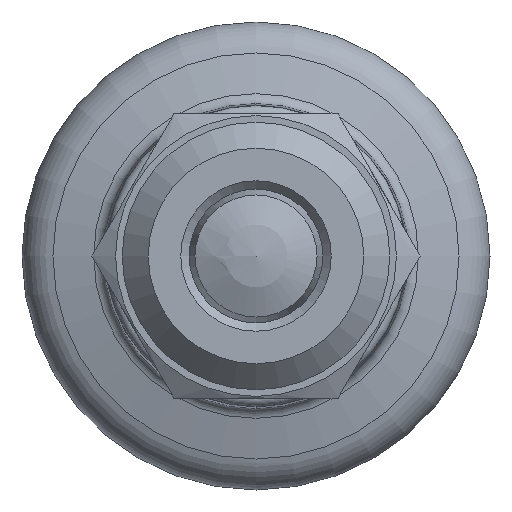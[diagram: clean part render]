
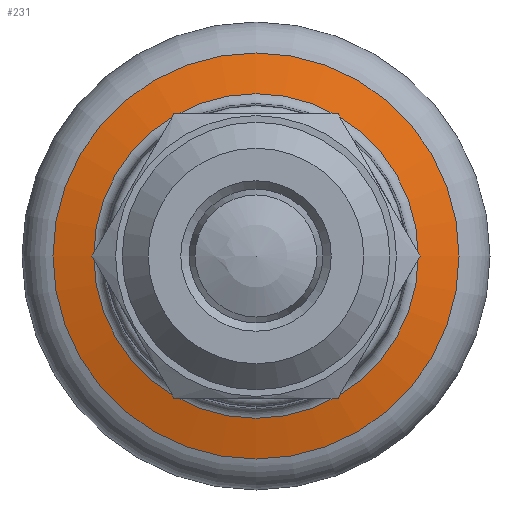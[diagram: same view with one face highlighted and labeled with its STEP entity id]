
A CAD part, front view. The second image highlights one B-rep face of the part: STEP entity #231.
In plain terms, the highlighted conical face has half-angle 75 degrees and reference radius 12.147 mm.
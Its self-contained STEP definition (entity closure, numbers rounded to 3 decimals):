
#231 = ADVANCED_FACE( '', ( #313, #314 ), #315, .T. );
#313 = FACE_BOUND( '', #450, .T. );
#314 = FACE_OUTER_BOUND( '', #451, .T. );
#315 = CONICAL_SURFACE( '', #452, 12.147, 1.309 );
#450 = EDGE_LOOP( '', ( #627 ) );
#451 = EDGE_LOOP( '', ( #628 ) );
#452 = AXIS2_PLACEMENT_3D( '', #629, #630, #631 );
#627 = ORIENTED_EDGE( '', *, *, #719, .F. );
#628 = ORIENTED_EDGE( '', *, *, #718, .T. );
#629 = CARTESIAN_POINT( '', ( 0., 57.504, 0. ) );
#630 = DIRECTION( '', ( 0., 1., 0. ) );
#631 = DIRECTION( '', ( 0., 0., 1. ) );
#718 = EDGE_CURVE( '', #794, #794, #795, .T. );
#719 = EDGE_CURVE( '', #796, #796, #797, .T. );
#794 = VERTEX_POINT( '', #1010 );
#795 = CIRCLE( '', #1011, 12.147 );
#796 = VERTEX_POINT( '', #1012 );
#797 = CIRCLE( '', #1013, 9.712 );
#1010 = CARTESIAN_POINT( '', ( 0., 57.504, -12.147 ) );
#1011 = AXIS2_PLACEMENT_3D( '', #1089, #1090, #1091 );
#1012 = CARTESIAN_POINT( '', ( 0., 56.851, -9.712 ) );
#1013 = AXIS2_PLACEMENT_3D( '', #1092, #1093, #1094 );
#1089 = CARTESIAN_POINT( '', ( 0., 57.504, 0. ) );
#1090 = DIRECTION( '', ( 0., -1., 0. ) );
#1091 = DIRECTION( '', ( 0., 0., -1. ) );
#1092 = CARTESIAN_POINT( '', ( 0., 56.851, 0. ) );
#1093 = DIRECTION( '', ( 0., -1., 0. ) );
#1094 = DIRECTION( '', ( 0., 0., -1. ) );
